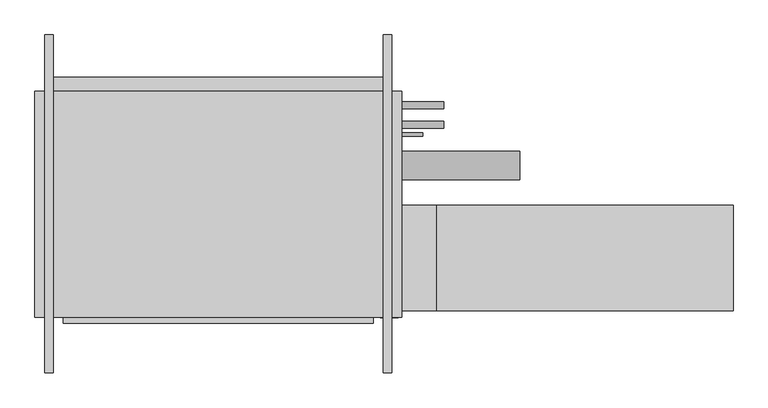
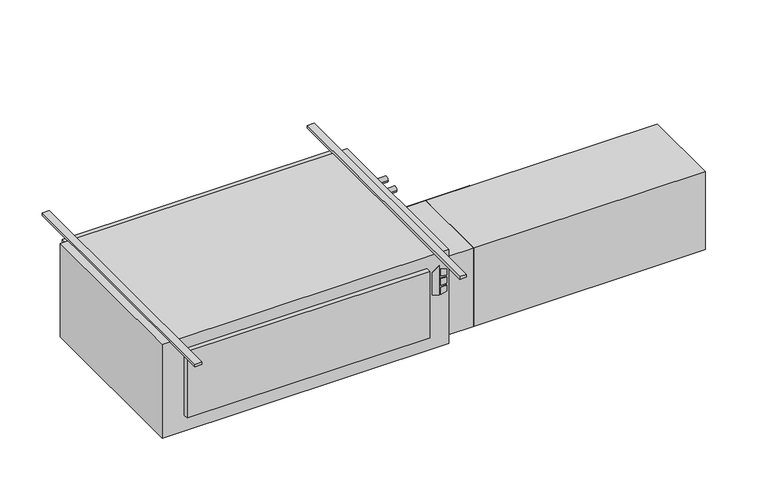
"""IFC4 building model written with IfcOpenShell, lengths in millimetres: proxy geometry."""

from ifc_helpers import new_model, si_unit, point, frame, frame_2d, origin, origin_with_axes, place, context, project, spatial, polyline, circle_curve, trimmed, segment, composite_curve, outline, extrude, source, transform, mapped, element, save


def mechanical_equipment_f391035c(model_context):
    return source(origin(), model_context, "Body", "SweptSolid", [
        extrude(outline(polyline([(-193.2519297, 735.0868862), (-203.2, 767.2602728), (-61.0290756, 767.2602728), (-84.0510817, 735.0868862), (-193.2519297, 735.0868862)])), frame((0.0, -647.7, 0.0), z_axis=(0.0, 1.0, 0.0), x_axis=(0.0, 0.0, 1.0)), (0.0, 0.0, 1.0), 3.175),
        extrude(outline(polyline([(-114.2526443, 774.0186058), (-117.4550368, 800.1), (-88.2261958, 800.1), (-80.1617807, 774.0186058), (-114.2526443, 774.0186058)])), frame((0.0, -647.7, 0.0), z_axis=(0.0, 1.0, 0.0), x_axis=(0.0, 0.0, 1.0)), (0.0, 0.0, 1.0), 3.175),
        extrude(outline(polyline([(-166.1161712, 800.1), (-169.7816721, 774.0186058), (-203.2, 774.0186058), (-194.5657628, 800.1), (-166.1161712, 800.1)])), frame((0.0, -647.7, 0.0), z_axis=(0.0, 1.0, 0.0), x_axis=(0.0, 0.0, 1.0)), (0.0, 0.0, 1.0), 3.175),
        extrude(outline(polyline([(-126.8010097, 800.1), (-124.5191834, 774.0186058), (-160.4567319, 774.0186058), (-157.7154669, 800.1), (-126.8010097, 800.1)])), frame((0.0, -647.7, 0.0), z_axis=(0.0, 1.0, 0.0), x_axis=(0.0, 0.0, 1.0)), (0.0, 0.0, 1.0), 3.175),
        extrude(outline(polyline([(711.2, -666.877), (-406.4, -666.877), (-406.4, -644.525), (711.2, -644.525), (711.2, -666.877)])), frame((0.0, 0.0, -381.0), z_axis=(0.0, 0.0, 1.0), x_axis=(1.0, 0.0, 0.0)), (0.0, 0.0, 1.0), 323.85),
        extrude(outline(polyline([(2006.6, -241.3), (2006.6, -622.3), (939.8, -622.3), (939.8, -241.3), (2006.6, -241.3)])), frame((0.0, 0.0, -431.8), z_axis=(0.0, 0.0, 1.0), x_axis=(1.0, 0.0, 0.0)), (0.0, 0.0, 1.0), 381.0),
        extrude(outline(polyline([(939.8, -241.3), (939.8, -622.3), (812.8, -622.3), (812.8, -241.3), (939.8, -241.3)])), frame((0.0, 0.0, -431.8), z_axis=(0.0, 0.0, 1.0), x_axis=(1.0, 0.0, 0.0)), (0.0, 0.0, 1.0), 381.0),
        extrude(outline(composite_curve([segment(trimmed(circle_curve(frame_2d((117.475, -171.45)), 12.7), [point((130.175, -171.45))], [point((104.775, -171.45))], False, "CARTESIAN"), True, "CONTINUOUS"), segment(trimmed(circle_curve(frame_2d((117.475, -171.45)), 12.7), [point((104.775, -171.45))], [point((130.175, -171.45))], False, "CARTESIAN"), True, "CONTINUOUS")], self_intersect=False)), frame((812.8, 0.0, 0.0), z_axis=(1.0, 0.0, 0.0), x_axis=(0.0, 1.0, 0.0)), (0.0, 0.0, 1.0), 152.4),
        extrude(outline(composite_curve([segment(trimmed(circle_curve(frame_2d((47.625, -177.8)), 12.7), [point((60.325, -177.8))], [point((34.925, -177.8))], False, "CARTESIAN"), True, "CONTINUOUS"), segment(trimmed(circle_curve(frame_2d((47.625, -177.8)), 12.7), [point((34.925, -177.8))], [point((60.325, -177.8))], False, "CARTESIAN"), True, "CONTINUOUS")], self_intersect=False)), frame((812.8, 0.0, 0.0), z_axis=(1.0, 0.0, 0.0), x_axis=(0.0, 1.0, 0.0)), (0.0, 0.0, 1.0), 152.4),
        extrude(outline(composite_curve([segment(trimmed(circle_curve(frame_2d((-98.4896516, -228.6360165)), 50.8), [point((-47.6896516, -228.6360165))], [point((-149.2896516, -228.6360165))], False, "CARTESIAN"), True, "CONTINUOUS"), segment(trimmed(circle_curve(frame_2d((-98.4896516, -228.6360165)), 50.8), [point((-149.2896516, -228.6360165))], [point((-47.6896516, -228.6360165))], False, "CARTESIAN"), True, "CONTINUOUS")], self_intersect=False)), frame((812.8, 0.0, 0.0), z_axis=(1.0, 0.0, 0.0), x_axis=(0.0, 1.0, 0.0)), (0.0, 0.0, 1.0), 425.45),
        extrude(outline(composite_curve([segment(trimmed(circle_curve(frame_2d((12.7, -409.575)), 6.35), [point((19.05, -409.575))], [point((6.35, -409.575))], False, "CARTESIAN"), True, "CONTINUOUS"), segment(trimmed(circle_curve(frame_2d((12.7, -409.575)), 6.35), [point((6.35, -409.575))], [point((19.05, -409.575))], False, "CARTESIAN"), True, "CONTINUOUS")], self_intersect=False)), frame((812.8, 0.0, 0.0), z_axis=(1.0, 0.0, 0.0), x_axis=(0.0, 1.0, 0.0)), (0.0, 0.0, 1.0), 76.2),
        extrude(outline(polyline([(812.8, 168.275), (812.8, -644.525), (-508.0, -644.525), (-508.0, 168.275), (812.8, 168.275)])), frame((0.0, 0.0, -457.2), z_axis=(0.0, 0.0, 1.0), x_axis=(1.0, 0.0, 0.0)), (0.0, 0.0, 1.0), 457.2),
        extrude(outline(polyline([(-469.9, 219.075), (774.7, 219.075), (774.7, 168.275), (-469.9, 168.275), (-469.9, 219.075)])), frame((0.0, 0.0, -381.0), z_axis=(0.0, 0.0, 1.0), x_axis=(1.0, 0.0, 0.0)), (0.0, 0.0, 1.0), 355.6),
        extrude(outline(polyline([(-441.325, 371.475), (-441.325, -844.677), (-473.075, -844.677), (-473.075, 371.475), (-441.325, 371.475)])), origin_with_axes(), (0.0, 0.0, 1.0), 12.7),
        extrude(outline(polyline([(777.875, 371.475), (777.875, -844.677), (746.125, -844.677), (746.125, 371.475), (777.875, 371.475)])), origin_with_axes(), (0.0, 0.0, 1.0), 12.7),
    ])


if __name__ == "__main__":
    model = new_model("IFC4")
    model_context = context("Model", 3, world=origin())
    ifc_project = project(units=[si_unit("LENGTHUNIT", "METRE", prefix="MILLI")], contexts=[model_context])
    site = spatial("IfcSite", under=ifc_project)
    building = spatial("IfcBuilding", under=site)
    placement = place(None, origin())
    mechanical_equipment_shape = mechanical_equipment_f391035c(model_context)
    element("IfcBuildingElementProxy", 1, Name="High_Capacity_Horizontal_Cabinet_Fan_Coil_Unit_-_HTY_-_IEC_-_2-Pipe_RH Side_2022 : Size 18 - 115v/60Hz/1Ph - 4/0 Coil - 4\" AirIn", ObjectType="High_Capacity_Horizontal_Cabinet_Fan_Coil_Unit_-_HTY_-_IEC_-_2-Pipe_RH Side_2022 : Size 18 - 115v/60Hz/1Ph - 4/0 Coil - 4\" AirIn", at=placement, inside=building, context=model_context, shape_type="MappedRepresentation", body=[
        mapped(mechanical_equipment_shape, transform((0.0, 0.0, 0.0), x_axis=(1.0, 0.0, 0.0), y_axis=(0.0, 1.0, 0.0), z_axis=(0.0, 0.0, 1.0))),
    ])
    save(model, "model.ifc")
